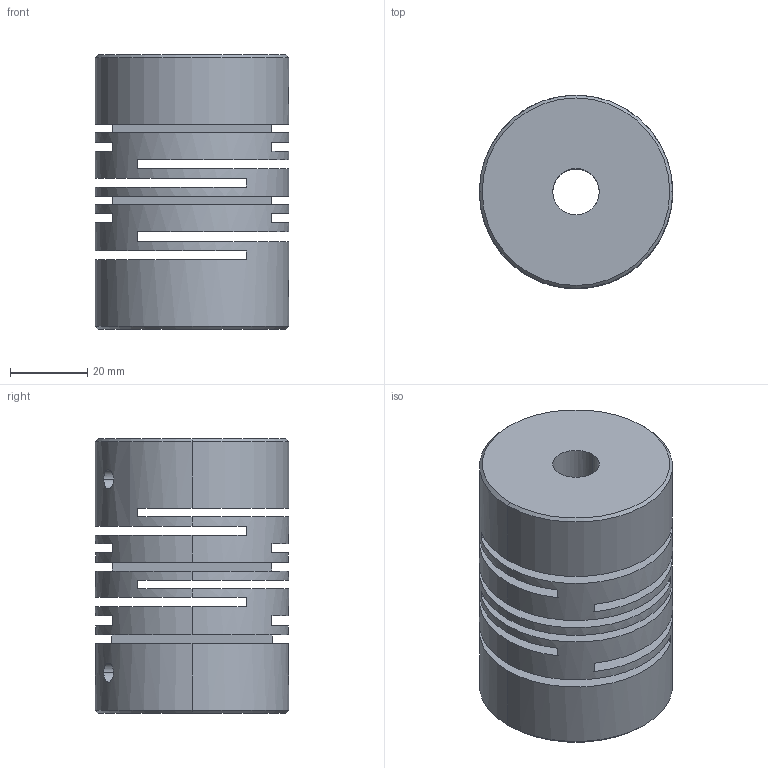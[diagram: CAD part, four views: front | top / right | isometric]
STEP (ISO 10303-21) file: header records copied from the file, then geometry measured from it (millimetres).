
FILE_DESCRIPTION (( 'STEP AP203' ), '1' );
FILE_NAME ('SFC-50.STEP', '2009-09-30T14:56:25', ( 'USER' ), ( 'HOME' ), 'SwSTEP 2.0', 'SolidWorks 2007', '' );
FILE_SCHEMA (( 'CONFIG_CONTROL_DESIGN' ));
Length unit declared in the file: millimetre
Products named in the file (1): SFC-50
Bounding box: 50 x 50 x 71 mm (x, y, z)
Volume: 101031.4 mm3; surface area: 40992.9 mm2
Topology: 1 solids, 1 shells, 62 faces, 180 edges, 116 vertices
Faces by surface type: cylinder 32, plane 26, cone 4
Entity records: 2669 total; most frequent: CARTESIAN_POINT 859, DIRECTION 374, ORIENTED_EDGE 360, EDGE_CURVE 180, AXIS2_PLACEMENT_3D 147, VERTEX_POINT 116, EDGE_LOOP 84, CIRCLE 84
